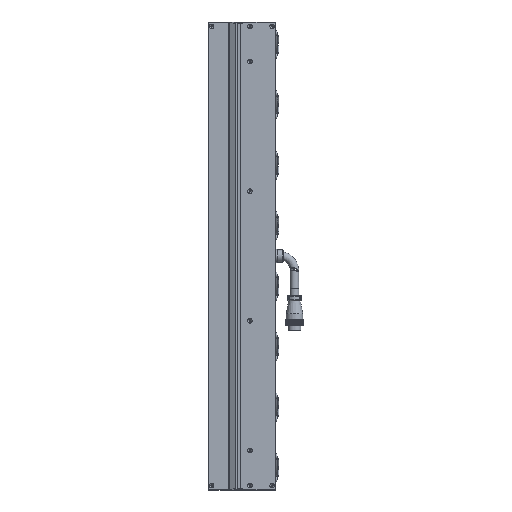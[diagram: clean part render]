
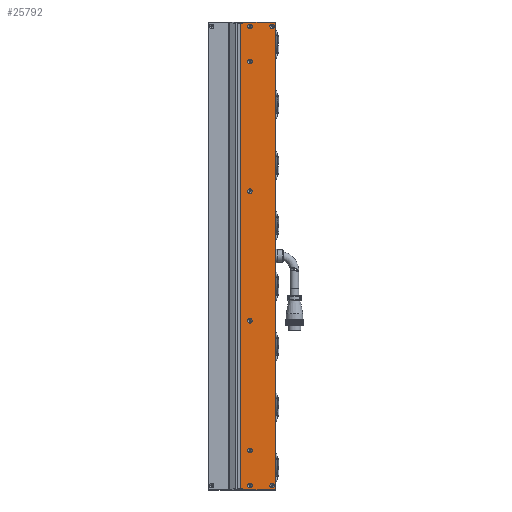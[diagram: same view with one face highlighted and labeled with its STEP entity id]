
A CAD part, left-side view. The second image highlights one B-rep face of the part: STEP entity #25792.
In plain terms, the highlighted planar face has unit normal (-1, 0, 0).
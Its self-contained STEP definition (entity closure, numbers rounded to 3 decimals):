
#323 = CARTESIAN_POINT ( 'NONE',  ( -24.998, -23.25, -323. ) ) ;
#1457 = ORIENTED_EDGE ( 'NONE', *, *, #34372, .T. ) ;
#2125 = DIRECTION ( 'NONE',  ( -1., 0., 0. ) ) ;
#2263 = DIRECTION ( 'NONE',  ( 1., 0., 0. ) ) ;
#2798 = CARTESIAN_POINT ( 'NONE',  ( -24.998, -26.5, -323. ) ) ;
#3151 = CARTESIAN_POINT ( 'NONE',  ( -24.998, -72.5, -323. ) ) ;
#4828 = CARTESIAN_POINT ( 'NONE',  ( -24.998, -72.5, 324.5 ) ) ;
#9251 = VECTOR ( 'NONE', #31278, 1000. ) ;
#10605 = CARTESIAN_POINT ( 'NONE',  ( -24.998, -36.5, 90. ) ) ;
#10640 = EDGE_CURVE ( 'NONE', #87933, #87933, #106580, .T. ) ;
#11422 = AXIS2_PLACEMENT_3D ( 'NONE', #10605, #109633, #30387 ) ;
#11469 = EDGE_CURVE ( 'NONE', #51237, #114992, #64568, .T. ) ;
#13099 = CARTESIAN_POINT ( 'NONE',  ( -24.998, -36.5, 93.15 ) ) ;
#14116 = CARTESIAN_POINT ( 'NONE',  ( -24.998, -72.5, 323. ) ) ;
#14165 = ORIENTED_EDGE ( 'NONE', *, *, #122373, .F. ) ;
#15490 = ORIENTED_EDGE ( 'NONE', *, *, #10640, .F. ) ;
#16287 = VERTEX_POINT ( 'NONE', #24286 ) ;
#16368 = ORIENTED_EDGE ( 'NONE', *, *, #130584, .T. ) ;
#20468 = CARTESIAN_POINT ( 'NONE',  ( -24.998, -72., 324.5 ) ) ;
#21070 = EDGE_LOOP ( 'NONE', ( #96865, #36690, #16368, #86261, #94241, #1457, #84764, #57318 ) ) ;
#21336 = CARTESIAN_POINT ( 'NONE',  ( -24.998, -72., 323. ) ) ;
#21489 = LINE ( 'NONE', #82559, #97190 ) ;
#21556 = VERTEX_POINT ( 'NONE', #13099 ) ;
#21806 = LINE ( 'NONE', #33034, #128933 ) ;
#22145 = CARTESIAN_POINT ( 'NONE',  ( -24.998, -67.5, -315.85 ) ) ;
#23660 = LINE ( 'NONE', #3151, #127601 ) ;
#24286 = CARTESIAN_POINT ( 'NONE',  ( -24.998, -36.5, -266.85 ) ) ;
#24298 = DIRECTION ( 'NONE',  ( -1., 0., 0. ) ) ;
#25792 = ADVANCED_FACE ( 'NONE', ( #58728, #57075, #60270, #93325, #85482, #39680, #80745, #50732, #53935 ), #62650, .F. ) ;
#26456 = AXIS2_PLACEMENT_3D ( 'NONE', #55211, #24298, #64056 ) ;
#27750 = EDGE_LOOP ( 'NONE', ( #119417 ) ) ;
#27834 = CIRCLE ( 'NONE', #77322, 3.15 ) ;
#27986 = EDGE_CURVE ( 'NONE', #51237, #100600, #23660, .T. ) ;
#28671 = CARTESIAN_POINT ( 'NONE',  ( -24.998, -26.5, -316. ) ) ;
#30387 = DIRECTION ( 'NONE',  ( 0., 0., 1. ) ) ;
#31278 = DIRECTION ( 'NONE',  ( 0., -1., 0. ) ) ;
#32709 = DIRECTION ( 'NONE',  ( 0., 0., -1. ) ) ;
#33034 = CARTESIAN_POINT ( 'NONE',  ( -24.998, -72.5, -324.5 ) ) ;
#33918 = VECTOR ( 'NONE', #49997, 1000. ) ;
#34372 = EDGE_CURVE ( 'NONE', #115067, #42295, #21489, .T. ) ;
#35009 = EDGE_LOOP ( 'NONE', ( #14165 ) ) ;
#35128 = ORIENTED_EDGE ( 'NONE', *, *, #101355, .F. ) ;
#36690 = ORIENTED_EDGE ( 'NONE', *, *, #102232, .T. ) ;
#36798 = DIRECTION ( 'NONE',  ( 0., 0., 1. ) ) ;
#37497 = LINE ( 'NONE', #122818, #9251 ) ;
#37968 = EDGE_CURVE ( 'NONE', #21556, #21556, #82497, .T. ) ;
#39075 = DIRECTION ( 'NONE',  ( 0., 0., 1. ) ) ;
#39680 = FACE_BOUND ( 'NONE', #82598, .T. ) ;
#40230 = LINE ( 'NONE', #21336, #33918 ) ;
#42295 = VERTEX_POINT ( 'NONE', #48703 ) ;
#42746 = DIRECTION ( 'NONE',  ( 0., -1., 0. ) ) ;
#44213 = EDGE_LOOP ( 'NONE', ( #15490 ) ) ;
#44712 = CARTESIAN_POINT ( 'NONE',  ( -24.998, -23.25, 323. ) ) ;
#45206 = DIRECTION ( 'NONE',  ( -1., 0., 0. ) ) ;
#45582 = EDGE_CURVE ( 'NONE', #130214, #130214, #72968, .T. ) ;
#45839 = VERTEX_POINT ( 'NONE', #20468 ) ;
#48275 = CARTESIAN_POINT ( 'NONE',  ( -24.998, -26.5, 324.5 ) ) ;
#48703 = CARTESIAN_POINT ( 'NONE',  ( -24.998, -26.5, 323. ) ) ;
#49685 = CARTESIAN_POINT ( 'NONE',  ( -24.998, -67.5, 319. ) ) ;
#49997 = DIRECTION ( 'NONE',  ( 0., 0., 1. ) ) ;
#50001 = EDGE_CURVE ( 'NONE', #54601, #54601, #112688, .T. ) ;
#50732 = FACE_OUTER_BOUND ( 'NONE', #21070, .T. ) ;
#51237 = VERTEX_POINT ( 'NONE', #323 ) ;
#52928 = AXIS2_PLACEMENT_3D ( 'NONE', #118248, #128408, #127078 ) ;
#53346 = DIRECTION ( 'NONE',  ( 0., 0., -1. ) ) ;
#53935 = FACE_BOUND ( 'NONE', #67457, .T. ) ;
#54218 = DIRECTION ( 'NONE',  ( 0., -1., 0. ) ) ;
#54482 = VECTOR ( 'NONE', #125359, 1000. ) ;
#54601 = VERTEX_POINT ( 'NONE', #124373 ) ;
#54980 = CARTESIAN_POINT ( 'NONE',  ( -24.998, -36.5, -270. ) ) ;
#55211 = CARTESIAN_POINT ( 'NONE',  ( -24.998, -36.5, -319. ) ) ;
#56171 = VERTEX_POINT ( 'NONE', #95782 ) ;
#56314 = EDGE_LOOP ( 'NONE', ( #84334 ) ) ;
#57075 = FACE_BOUND ( 'NONE', #35009, .T. ) ;
#57318 = ORIENTED_EDGE ( 'NONE', *, *, #11469, .F. ) ;
#58360 = VERTEX_POINT ( 'NONE', #111852 ) ;
#58728 = FACE_BOUND ( 'NONE', #44213, .T. ) ;
#58981 = CARTESIAN_POINT ( 'NONE',  ( -24.998, -36.5, 322.15 ) ) ;
#59377 = CARTESIAN_POINT ( 'NONE',  ( -24.998, -36.5, -90. ) ) ;
#60270 = FACE_BOUND ( 'NONE', #99679, .T. ) ;
#62650 = PLANE ( 'NONE',  #116826 ) ;
#64056 = DIRECTION ( 'NONE',  ( 0., 0., 1. ) ) ;
#64568 = LINE ( 'NONE', #111949, #122808 ) ;
#66073 = CIRCLE ( 'NONE', #83050, 3.15 ) ;
#66420 = DIRECTION ( 'NONE',  ( -1., 0., 0. ) ) ;
#67457 = EDGE_LOOP ( 'NONE', ( #70074 ) ) ;
#68284 = DIRECTION ( 'NONE',  ( -1., 0., 0. ) ) ;
#68697 = ORIENTED_EDGE ( 'NONE', *, *, #96127, .F. ) ;
#70074 = ORIENTED_EDGE ( 'NONE', *, *, #50001, .F. ) ;
#70671 = EDGE_CURVE ( 'NONE', #45839, #115067, #100152, .T. ) ;
#72890 = CARTESIAN_POINT ( 'NONE',  ( -24.998, -36.5, -86.85 ) ) ;
#72968 = CIRCLE ( 'NONE', #77682, 3.15 ) ;
#75876 = CIRCLE ( 'NONE', #26456, 3.15 ) ;
#76381 = VERTEX_POINT ( 'NONE', #22145 ) ;
#76465 = EDGE_CURVE ( 'NONE', #93885, #93885, #75876, .T. ) ;
#77174 = CIRCLE ( 'NONE', #52928, 3.15 ) ;
#77322 = AXIS2_PLACEMENT_3D ( 'NONE', #54980, #66420, #36798 ) ;
#77682 = AXIS2_PLACEMENT_3D ( 'NONE', #116484, #45206, #106796 ) ;
#78789 = AXIS2_PLACEMENT_3D ( 'NONE', #111714, #2125, #123103 ) ;
#79520 = VERTEX_POINT ( 'NONE', #72890 ) ;
#79643 = DIRECTION ( 'NONE',  ( 0., 0., 1. ) ) ;
#80201 = LINE ( 'NONE', #28671, #124152 ) ;
#80281 = DIRECTION ( 'NONE',  ( 0., 0., -1. ) ) ;
#80745 = FACE_BOUND ( 'NONE', #112720, .T. ) ;
#82086 = EDGE_CURVE ( 'NONE', #58360, #45839, #40230, .T. ) ;
#82497 = CIRCLE ( 'NONE', #11422, 3.15 ) ;
#82559 = CARTESIAN_POINT ( 'NONE',  ( -24.998, -26.5, 316. ) ) ;
#82598 = EDGE_LOOP ( 'NONE', ( #35128 ) ) ;
#83050 = AXIS2_PLACEMENT_3D ( 'NONE', #59377, #130159, #79643 ) ;
#84334 = ORIENTED_EDGE ( 'NONE', *, *, #45582, .F. ) ;
#84764 = ORIENTED_EDGE ( 'NONE', *, *, #102263, .F. ) ;
#85482 = FACE_BOUND ( 'NONE', #56314, .T. ) ;
#86261 = ORIENTED_EDGE ( 'NONE', *, *, #82086, .T. ) ;
#87556 = ORIENTED_EDGE ( 'NONE', *, *, #76465, .F. ) ;
#87933 = VERTEX_POINT ( 'NONE', #58981 ) ;
#93325 = FACE_BOUND ( 'NONE', #27750, .T. ) ;
#93885 = VERTEX_POINT ( 'NONE', #99266 ) ;
#94241 = ORIENTED_EDGE ( 'NONE', *, *, #70671, .T. ) ;
#95782 = CARTESIAN_POINT ( 'NONE',  ( -24.998, -26.5, -324.5 ) ) ;
#96127 = EDGE_CURVE ( 'NONE', #79520, #79520, #66073, .T. ) ;
#96865 = ORIENTED_EDGE ( 'NONE', *, *, #27986, .T. ) ;
#97190 = VECTOR ( 'NONE', #32709, 1000. ) ;
#99266 = CARTESIAN_POINT ( 'NONE',  ( -24.998, -36.5, -315.85 ) ) ;
#99679 = EDGE_LOOP ( 'NONE', ( #68697 ) ) ;
#100152 = LINE ( 'NONE', #4828, #54482 ) ;
#100600 = VERTEX_POINT ( 'NONE', #2798 ) ;
#101355 = EDGE_CURVE ( 'NONE', #76381, #76381, #77174, .T. ) ;
#102232 = EDGE_CURVE ( 'NONE', #100600, #56171, #80201, .T. ) ;
#102263 = EDGE_CURVE ( 'NONE', #114992, #42295, #37497, .T. ) ;
#105690 = AXIS2_PLACEMENT_3D ( 'NONE', #49685, #68284, #39075 ) ;
#106580 = CIRCLE ( 'NONE', #78789, 3.15 ) ;
#106796 = DIRECTION ( 'NONE',  ( 0., 0., 1. ) ) ;
#109633 = DIRECTION ( 'NONE',  ( -1., 0., 0. ) ) ;
#110604 = DIRECTION ( 'NONE',  ( 0., 0., 1. ) ) ;
#111714 = CARTESIAN_POINT ( 'NONE',  ( -24.998, -36.5, 319. ) ) ;
#111852 = CARTESIAN_POINT ( 'NONE',  ( -24.998, -72., -324.5 ) ) ;
#111949 = CARTESIAN_POINT ( 'NONE',  ( -24.998, -23.25, -323. ) ) ;
#112688 = CIRCLE ( 'NONE', #105690, 3.15 ) ;
#112720 = EDGE_LOOP ( 'NONE', ( #87556 ) ) ;
#114992 = VERTEX_POINT ( 'NONE', #44712 ) ;
#115067 = VERTEX_POINT ( 'NONE', #48275 ) ;
#116484 = CARTESIAN_POINT ( 'NONE',  ( -24.998, -36.5, 270. ) ) ;
#116826 = AXIS2_PLACEMENT_3D ( 'NONE', #14116, #2263, #53346 ) ;
#118248 = CARTESIAN_POINT ( 'NONE',  ( -24.998, -67.5, -319. ) ) ;
#119417 = ORIENTED_EDGE ( 'NONE', *, *, #37968, .F. ) ;
#122373 = EDGE_CURVE ( 'NONE', #16287, #16287, #27834, .T. ) ;
#122808 = VECTOR ( 'NONE', #110604, 1000. ) ;
#122818 = CARTESIAN_POINT ( 'NONE',  ( -24.998, -72.5, 323. ) ) ;
#123103 = DIRECTION ( 'NONE',  ( 0., 0., 1. ) ) ;
#123941 = CARTESIAN_POINT ( 'NONE',  ( -24.998, -36.5, 273.15 ) ) ;
#124152 = VECTOR ( 'NONE', #80281, 1000. ) ;
#124373 = CARTESIAN_POINT ( 'NONE',  ( -24.998, -67.5, 322.15 ) ) ;
#125359 = DIRECTION ( 'NONE',  ( 0., 1., 0. ) ) ;
#127078 = DIRECTION ( 'NONE',  ( 0., 0., 1. ) ) ;
#127601 = VECTOR ( 'NONE', #54218, 1000. ) ;
#128408 = DIRECTION ( 'NONE',  ( -1., 0., 0. ) ) ;
#128933 = VECTOR ( 'NONE', #42746, 1000. ) ;
#130159 = DIRECTION ( 'NONE',  ( -1., 0., 0. ) ) ;
#130214 = VERTEX_POINT ( 'NONE', #123941 ) ;
#130584 = EDGE_CURVE ( 'NONE', #56171, #58360, #21806, .T. ) ;
